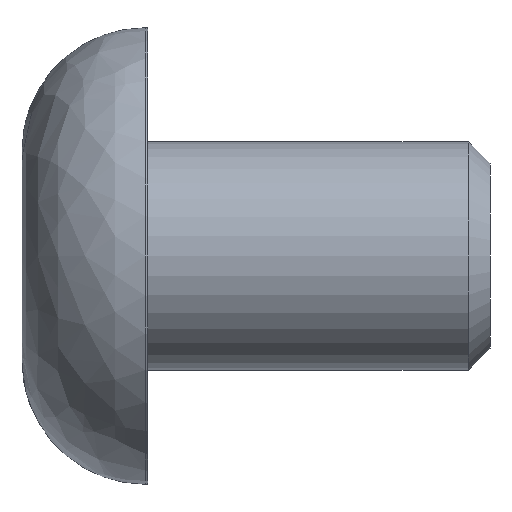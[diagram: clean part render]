
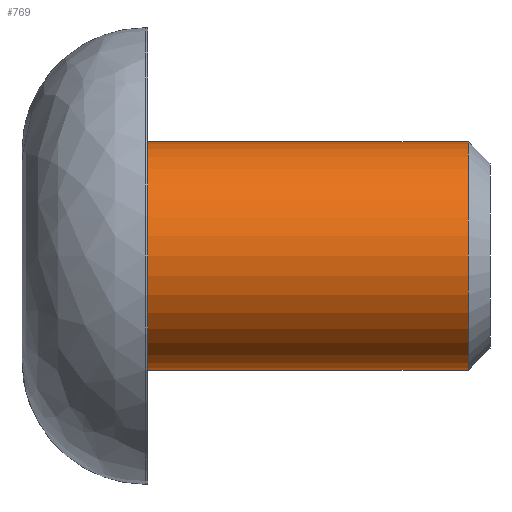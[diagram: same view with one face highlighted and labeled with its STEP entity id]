
A CAD part, front view. The second image highlights one B-rep face of the part: STEP entity #769.
In plain terms, the highlighted cylindrical face has radius 4 mm (diameter 8 mm), a partial arc.
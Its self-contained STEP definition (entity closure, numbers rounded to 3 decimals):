
#33 = LINE ( 'NONE', #89, #97 ) ;
#38 = DIRECTION ( 'NONE',  ( -1., 0., 0. ) ) ;
#43 = CARTESIAN_POINT ( 'NONE',  ( 15.633, 0., 4. ) ) ;
#58 = LINE ( 'NONE', #117, #228 ) ;
#76 = DIRECTION ( 'NONE',  ( -1., 0., 0. ) ) ;
#83 = DIRECTION ( 'NONE',  ( -1., 0., 0. ) ) ;
#89 = CARTESIAN_POINT ( 'NONE',  ( 10.017, 0., -4. ) ) ;
#97 = VECTOR ( 'NONE', #83, 1000. ) ;
#117 = CARTESIAN_POINT ( 'NONE',  ( 10.017, 0., 4. ) ) ;
#125 = AXIS2_PLACEMENT_3D ( 'NONE', #582, #38, #757 ) ;
#178 = AXIS2_PLACEMENT_3D ( 'NONE', #595, #300, #237 ) ;
#209 = EDGE_LOOP ( 'NONE', ( #660, #570, #559, #750 ) ) ;
#211 = DIRECTION ( 'NONE',  ( 0., 0., 1. ) ) ;
#212 = DIRECTION ( 'NONE',  ( -1., 0., 0. ) ) ;
#218 = CARTESIAN_POINT ( 'NONE',  ( 15.633, 0., 0. ) ) ;
#228 = VECTOR ( 'NONE', #76, 1000. ) ;
#237 = DIRECTION ( 'NONE',  ( 0., 0., 1. ) ) ;
#277 = CIRCLE ( 'NONE', #504, 4. ) ;
#296 = CARTESIAN_POINT ( 'NONE',  ( 4.4, 0., 4. ) ) ;
#300 = DIRECTION ( 'NONE',  ( -1., 0., 0. ) ) ;
#350 = VERTEX_POINT ( 'NONE', #557 ) ;
#401 = VERTEX_POINT ( 'NONE', #473 ) ;
#473 = CARTESIAN_POINT ( 'NONE',  ( 15.633, 0., -4. ) ) ;
#504 = AXIS2_PLACEMENT_3D ( 'NONE', #218, #212, #211 ) ;
#518 = EDGE_CURVE ( 'NONE', #401, #710, #277, .T. ) ;
#557 = CARTESIAN_POINT ( 'NONE',  ( 4.4, 0., -4. ) ) ;
#559 = ORIENTED_EDGE ( 'NONE', *, *, #596, .T. ) ;
#570 = ORIENTED_EDGE ( 'NONE', *, *, #518, .T. ) ;
#582 = CARTESIAN_POINT ( 'NONE',  ( 10.017, 0., 0. ) ) ;
#593 = EDGE_CURVE ( 'NONE', #401, #350, #33, .T. ) ;
#595 = CARTESIAN_POINT ( 'NONE',  ( 4.4, 0., 0. ) ) ;
#596 = EDGE_CURVE ( 'NONE', #710, #712, #58, .T. ) ;
#609 = CYLINDRICAL_SURFACE ( 'NONE', #125, 4. ) ;
#625 = FACE_OUTER_BOUND ( 'NONE', #209, .T. ) ;
#660 = ORIENTED_EDGE ( 'NONE', *, *, #593, .F. ) ;
#710 = VERTEX_POINT ( 'NONE', #43 ) ;
#712 = VERTEX_POINT ( 'NONE', #296 ) ;
#732 = EDGE_CURVE ( 'NONE', #350, #712, #747, .T. ) ;
#747 = CIRCLE ( 'NONE', #178, 4. ) ;
#750 = ORIENTED_EDGE ( 'NONE', *, *, #732, .F. ) ;
#757 = DIRECTION ( 'NONE',  ( 0., 0., 1. ) ) ;
#769 = ADVANCED_FACE ( 'NONE', ( #625 ), #609, .T. ) ;
